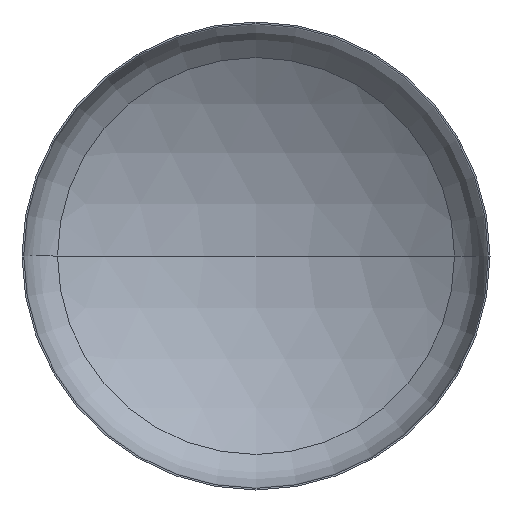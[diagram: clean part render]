
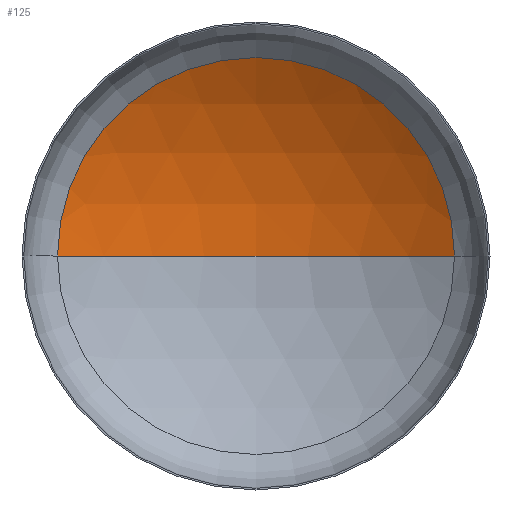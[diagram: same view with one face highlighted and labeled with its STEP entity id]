
A CAD part, front view. The second image highlights one B-rep face of the part: STEP entity #125.
In plain terms, the highlighted spherical face has radius 4000 mm.
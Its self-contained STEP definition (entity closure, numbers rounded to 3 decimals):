
#1 = DIRECTION ( 'NONE',  ( -1., 0., 0. ) ) ;
#7 = VERTEX_POINT ( 'NONE', #207 ) ;
#16 = AXIS2_PLACEMENT_3D ( 'NONE', #126, #101, #233 ) ;
#17 = AXIS2_PLACEMENT_3D ( 'NONE', #172, #97, #92 ) ;
#26 = AXIS2_PLACEMENT_3D ( 'NONE', #57, #66, #72 ) ;
#39 = AXIS2_PLACEMENT_3D ( 'NONE', #122, #180, #1 ) ;
#57 = CARTESIAN_POINT ( 'NONE',  ( 0., 707.943, 0. ) ) ;
#66 = DIRECTION ( 'NONE',  ( 0., -1., 0. ) ) ;
#72 = DIRECTION ( 'NONE',  ( 1., 0., 0. ) ) ;
#86 = VERTEX_POINT ( 'NONE', #258 ) ;
#92 = DIRECTION ( 'NONE',  ( -1., 0., 0. ) ) ;
#97 = DIRECTION ( 'NONE',  ( 0., 0., -1. ) ) ;
#101 = DIRECTION ( 'NONE',  ( 0., 0., 1. ) ) ;
#122 = CARTESIAN_POINT ( 'NONE',  ( 0., -2683.97, 0. ) ) ;
#125 = ADVANCED_FACE ( 'NONE', ( #344 ), #199, .F. ) ;
#126 = CARTESIAN_POINT ( 'NONE',  ( 0., -2683.97, 0. ) ) ;
#172 = CARTESIAN_POINT ( 'NONE',  ( 0., -2683.97, 0. ) ) ;
#180 = DIRECTION ( 'NONE',  ( 0., 0., -1. ) ) ;
#199 = SPHERICAL_SURFACE ( 'NONE', #39, 4000. ) ;
#207 = CARTESIAN_POINT ( 'NONE',  ( -2120.124, 707.943, 0. ) ) ;
#233 = DIRECTION ( 'NONE',  ( 1., 0., 0. ) ) ;
#258 = CARTESIAN_POINT ( 'NONE',  ( 2120.124, 707.943, 0. ) ) ;
#308 = CIRCLE ( 'NONE', #16, 4000. ) ;
#311 = ORIENTED_EDGE ( 'NONE', *, *, #338, .F. ) ;
#313 = CIRCLE ( 'NONE', #17, 4000. ) ;
#319 = CARTESIAN_POINT ( 'NONE',  ( 0., 1316.03, 0. ) ) ;
#325 = EDGE_CURVE ( 'NONE', #86, #7, #398, .T. ) ;
#329 = EDGE_CURVE ( 'NONE', #354, #86, #313, .T. ) ;
#338 = EDGE_CURVE ( 'NONE', #354, #7, #308, .T. ) ;
#344 = FACE_OUTER_BOUND ( 'NONE', #395, .T. ) ;
#345 = ORIENTED_EDGE ( 'NONE', *, *, #329, .T. ) ;
#354 = VERTEX_POINT ( 'NONE', #319 ) ;
#363 = ORIENTED_EDGE ( 'NONE', *, *, #325, .T. ) ;
#395 = EDGE_LOOP ( 'NONE', ( #311, #345, #363 ) ) ;
#398 = CIRCLE ( 'NONE', #26, 2120.124 ) ;
